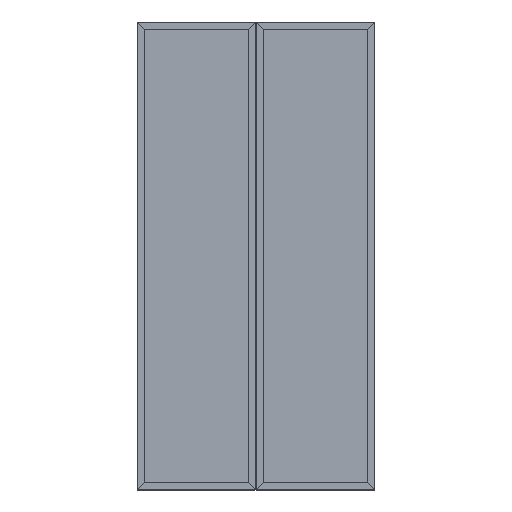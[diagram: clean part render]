
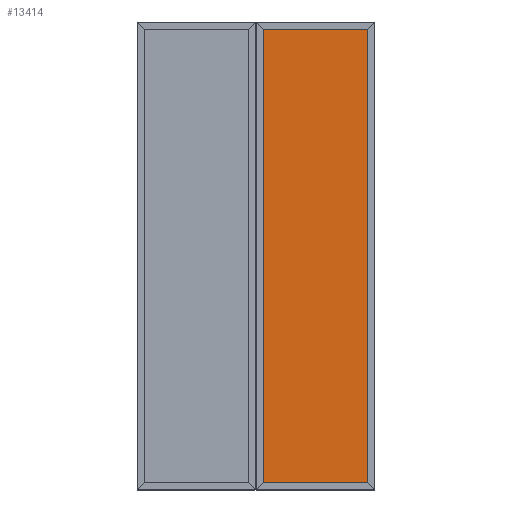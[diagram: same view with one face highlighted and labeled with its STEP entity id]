
A CAD part, top view. The second image highlights one B-rep face of the part: STEP entity #13414.
In plain terms, the highlighted planar face has unit normal (0, 0, 1).
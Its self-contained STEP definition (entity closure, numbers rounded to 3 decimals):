
#6 = ORIENTED_EDGE ( 'NONE', *, *, #19354, .T. ) ;
#435 = DIRECTION ( 'NONE',  ( 0., 0., -1. ) ) ;
#648 = PLANE ( 'NONE',  #3052 ) ;
#1323 = CARTESIAN_POINT ( 'NONE',  ( 267.075, 1162.2, -13.25 ) ) ;
#2353 = CARTESIAN_POINT ( 'NONE',  ( -267.075, -1162.2, -13.25 ) ) ;
#3052 = AXIS2_PLACEMENT_3D ( 'NONE', #3893, #435, #8869 ) ;
#3280 = VECTOR ( 'NONE', #6491, 1000. ) ;
#3893 = CARTESIAN_POINT ( 'NONE',  ( 0., 0., -13.25 ) ) ;
#3943 = DIRECTION ( 'NONE',  ( -1., 0., 0. ) ) ;
#4253 = VECTOR ( 'NONE', #19581, 1000. ) ;
#6491 = DIRECTION ( 'NONE',  ( 0., 1., 0. ) ) ;
#7357 = ORIENTED_EDGE ( 'NONE', *, *, #17372, .F. ) ;
#7702 = DIRECTION ( 'NONE',  ( 0., 1., 0. ) ) ;
#7786 = VERTEX_POINT ( 'NONE', #21152 ) ;
#7859 = EDGE_LOOP ( 'NONE', ( #7357, #6, #12057, #12848 ) ) ;
#7992 = CARTESIAN_POINT ( 'NONE',  ( -267.075, 0., -13.25 ) ) ;
#8807 = VERTEX_POINT ( 'NONE', #1323 ) ;
#8869 = DIRECTION ( 'NONE',  ( -1., 0., 0. ) ) ;
#9518 = LINE ( 'NONE', #19796, #4253 ) ;
#11263 = VERTEX_POINT ( 'NONE', #2353 ) ;
#11375 = CARTESIAN_POINT ( 'NONE',  ( 267.075, 0., -13.25 ) ) ;
#12057 = ORIENTED_EDGE ( 'NONE', *, *, #18050, .T. ) ;
#12848 = ORIENTED_EDGE ( 'NONE', *, *, #16466, .F. ) ;
#13414 = ADVANCED_FACE ( 'NONE', ( #15252 ), #648, .F. ) ;
#13779 = CARTESIAN_POINT ( 'NONE',  ( 0., -1162.2, -13.25 ) ) ;
#15252 = FACE_OUTER_BOUND ( 'NONE', #7859, .T. ) ;
#16466 = EDGE_CURVE ( 'NONE', #11263, #19302, #21198, .T. ) ;
#17372 = EDGE_CURVE ( 'NONE', #7786, #11263, #20722, .T. ) ;
#17650 = LINE ( 'NONE', #11375, #19688 ) ;
#18050 = EDGE_CURVE ( 'NONE', #8807, #19302, #9518, .T. ) ;
#19302 = VERTEX_POINT ( 'NONE', #21230 ) ;
#19354 = EDGE_CURVE ( 'NONE', #7786, #8807, #17650, .T. ) ;
#19581 = DIRECTION ( 'NONE',  ( -1., 0., 0. ) ) ;
#19688 = VECTOR ( 'NONE', #7702, 1000. ) ;
#19796 = CARTESIAN_POINT ( 'NONE',  ( 0., 1162.2, -13.25 ) ) ;
#19824 = VECTOR ( 'NONE', #3943, 1000. ) ;
#20722 = LINE ( 'NONE', #13779, #19824 ) ;
#21152 = CARTESIAN_POINT ( 'NONE',  ( 267.075, -1162.2, -13.25 ) ) ;
#21198 = LINE ( 'NONE', #7992, #3280 ) ;
#21230 = CARTESIAN_POINT ( 'NONE',  ( -267.075, 1162.2, -13.25 ) ) ;
